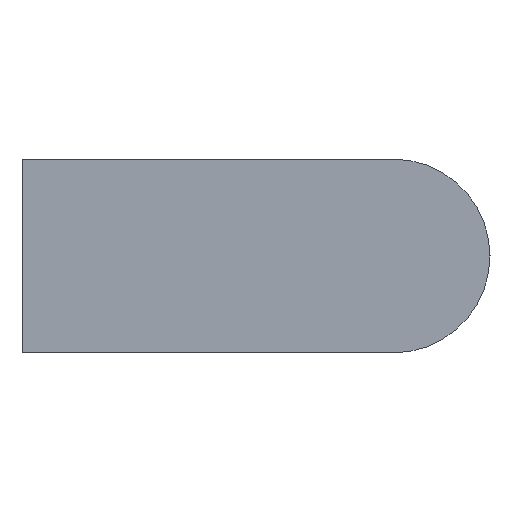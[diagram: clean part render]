
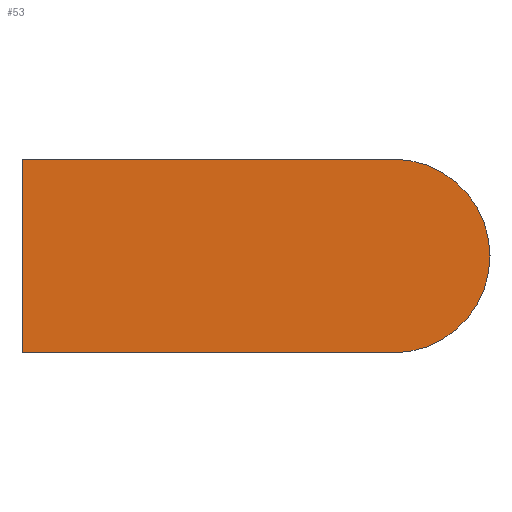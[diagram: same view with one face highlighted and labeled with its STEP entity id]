
A CAD part, left-side view. The second image highlights one B-rep face of the part: STEP entity #53.
In plain terms, the highlighted planar face has unit normal (-1, 0, 0).
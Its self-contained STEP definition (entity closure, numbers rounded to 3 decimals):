
#53 = ADVANCED_FACE( '', ( #112 ), #113, .F. );
#112 = FACE_OUTER_BOUND( '', #177, .T. );
#113 = PLANE( '', #178 );
#177 = EDGE_LOOP( '', ( #263, #264, #265, #266 ) );
#178 = AXIS2_PLACEMENT_3D( '', #267, #268, #269 );
#263 = ORIENTED_EDGE( '', *, *, #362, .F. );
#264 = ORIENTED_EDGE( '', *, *, #371, .F. );
#265 = ORIENTED_EDGE( '', *, *, #352, .F. );
#266 = ORIENTED_EDGE( '', *, *, #372, .F. );
#267 = CARTESIAN_POINT( '', ( -15., -28.04, 0. ) );
#268 = DIRECTION( '', ( 1., 0., 0. ) );
#269 = DIRECTION( '', ( 0., 0., -1. ) );
#352 = EDGE_CURVE( '', #405, #406, #407, .T. );
#362 = EDGE_CURVE( '', #423, #424, #425, .T. );
#371 = EDGE_CURVE( '', #406, #423, #437, .T. );
#372 = EDGE_CURVE( '', #424, #405, #438, .T. );
#405 = VERTEX_POINT( '', #478 );
#406 = VERTEX_POINT( '', #479 );
#407 = LINE( '', #480, #481 );
#423 = VERTEX_POINT( '', #504 );
#424 = VERTEX_POINT( '', #505 );
#425 = LINE( '', #506, #507 );
#437 = LINE( '', #524, #525 );
#438 = CIRCLE( '', #526, 7.32 );
#478 = CARTESIAN_POINT( '', ( -15., -28.04, -7.32 ) );
#479 = CARTESIAN_POINT( '', ( -15., 0., -7.32 ) );
#480 = CARTESIAN_POINT( '', ( -15., -28.04, -7.32 ) );
#481 = VECTOR( '', #558, 1000. );
#504 = CARTESIAN_POINT( '', ( -15., 0., 7.32 ) );
#505 = CARTESIAN_POINT( '', ( -15., -28.04, 7.32 ) );
#506 = CARTESIAN_POINT( '', ( -15., 0., 7.32 ) );
#507 = VECTOR( '', #566, 1000. );
#524 = CARTESIAN_POINT( '', ( -15., 0., -7.32 ) );
#525 = VECTOR( '', #575, 1000. );
#526 = AXIS2_PLACEMENT_3D( '', #576, #577, #578 );
#558 = DIRECTION( '', ( 0., 1., 0. ) );
#566 = DIRECTION( '', ( 0., -1., 0. ) );
#575 = DIRECTION( '', ( 0., 0., 1. ) );
#576 = CARTESIAN_POINT( '', ( -15., -28.04, 0. ) );
#577 = DIRECTION( '', ( 1., 0., 0. ) );
#578 = DIRECTION( '', ( 0., 0., -1. ) );
